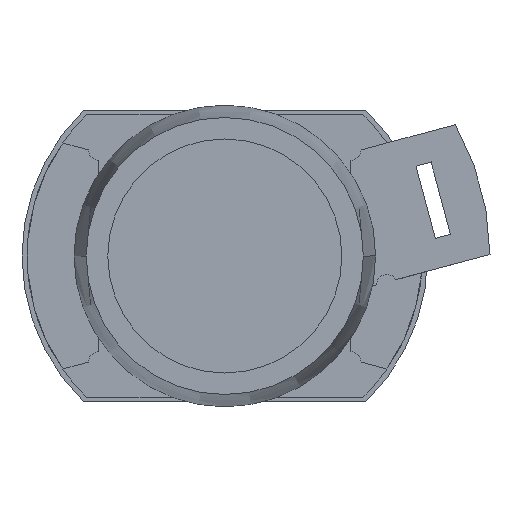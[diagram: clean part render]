
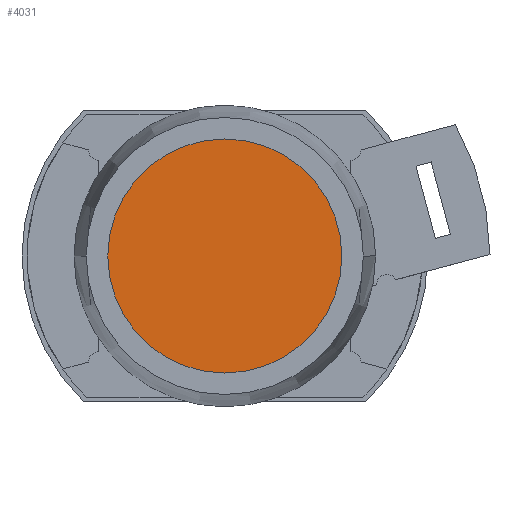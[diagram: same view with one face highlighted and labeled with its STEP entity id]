
A CAD part, left-side view. The second image highlights one B-rep face of the part: STEP entity #4031.
In plain terms, the highlighted planar face has unit normal (-1, 0, 0).
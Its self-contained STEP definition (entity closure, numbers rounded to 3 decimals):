
#1493 = EDGE_LOOP ( 'NONE', ( #1977, #2491 ) ) ;
#1977 = ORIENTED_EDGE ( 'NONE', *, *, #9710, .T. ) ;
#2491 = ORIENTED_EDGE ( 'NONE', *, *, #2836, .T. ) ;
#2620 = CARTESIAN_POINT ( 'NONE',  ( 1., 0., -11.25 ) ) ;
#2836 = EDGE_CURVE ( 'NONE', #8955, #8874, #4415, .T. ) ;
#2975 = CARTESIAN_POINT ( 'NONE',  ( 1., 0., 11.25 ) ) ;
#4031 = ADVANCED_FACE ( 'NONE', ( #5321 ), #5322, .T. ) ;
#4415 = CIRCLE ( 'NONE', #4416, 11.25 ) ;
#4416 = AXIS2_PLACEMENT_3D ( 'NONE', #4417, #4418, #4419 ) ;
#4417 = CARTESIAN_POINT ( 'NONE',  ( 1., 0., 0. ) ) ;
#4418 = DIRECTION ( 'NONE',  ( -1., 0., 0. ) ) ;
#4419 = DIRECTION ( 'NONE',  ( 0., 0., -1. ) ) ;
#5321 = FACE_OUTER_BOUND ( 'NONE', #1493, .T. ) ;
#5322 = PLANE ( 'NONE',  #5323 ) ;
#5323 = AXIS2_PLACEMENT_3D ( 'NONE', #5324, #5325, #5326 ) ;
#5324 = CARTESIAN_POINT ( 'NONE',  ( 1., 5.625, 0. ) ) ;
#5325 = DIRECTION ( 'NONE',  ( -1., 0., 0. ) ) ;
#5326 = DIRECTION ( 'NONE',  ( 0., 0., 1. ) ) ;
#6372 = CIRCLE ( 'NONE', #6373, 11.25 ) ;
#6373 = AXIS2_PLACEMENT_3D ( 'NONE', #6374, #6375, #6376 ) ;
#6374 = CARTESIAN_POINT ( 'NONE',  ( 1., 0., 0. ) ) ;
#6375 = DIRECTION ( 'NONE',  ( -1., 0., 0. ) ) ;
#6376 = DIRECTION ( 'NONE',  ( 0., 0., -1. ) ) ;
#8874 = VERTEX_POINT ( 'NONE', #2620 ) ;
#8955 = VERTEX_POINT ( 'NONE', #2975 ) ;
#9710 = EDGE_CURVE ( 'NONE', #8874, #8955, #6372, .T. ) ;
